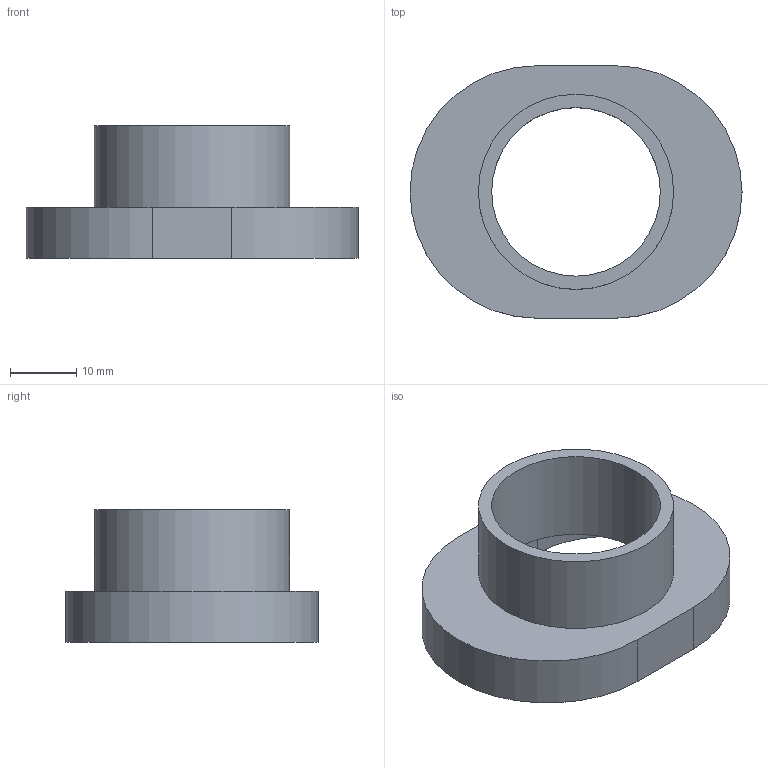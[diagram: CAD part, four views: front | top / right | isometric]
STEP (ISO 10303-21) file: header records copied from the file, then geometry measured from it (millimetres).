
FILE_DESCRIPTION(('Open CASCADE Model'),'2;1');
FILE_NAME('Open CASCADE Shape Model','2026-08-16T15:13:29',('Author'),( 'Open CASCADE'),'Open CASCADE STEP processor 7.9','Open CASCADE 7.9' ,'Unknown');
FILE_SCHEMA(('AUTOMOTIVE_DESIGN { 1 0 10303 214 1 1 1 1 }'));
Length unit declared in the file: millimetre
Products named in the file (1): Open CASCADE STEP translator 7.9 13
Bounding box: 50 x 38 x 20 mm (x, y, z)
Volume: 6749.6 mm3; surface area: 6253.8 mm2
Topology: 1 solids, 1 shells, 14 faces, 30 edges, 20 vertices
Faces by surface type: plane 8, cylinder 6
Full cylindrical faces by diameter (mm): 25.4 x1, 29.4 x1
Entity records: 794 total; most frequent: CARTESIAN_POINT 139, DIRECTION 128, LINE 64, VECTOR 64, ORIENTED_EDGE 60, PCURVE 60, DEFINITIONAL_REPRESENTATION 60, EDGE_CURVE 30
